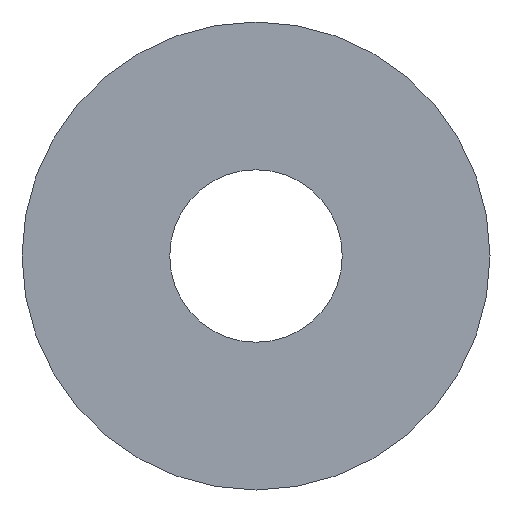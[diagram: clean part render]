
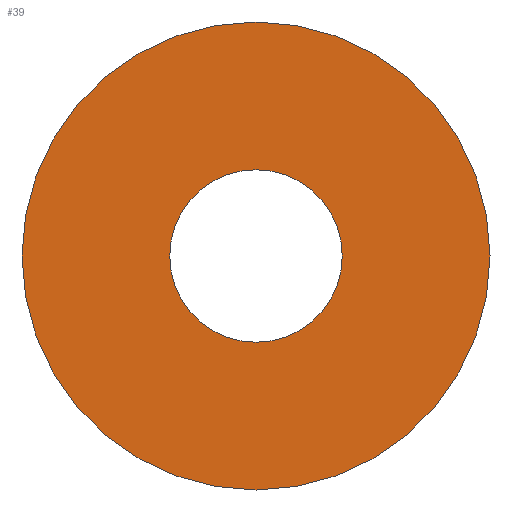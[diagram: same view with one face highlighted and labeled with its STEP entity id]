
A CAD part, front view. The second image highlights one B-rep face of the part: STEP entity #39.
In plain terms, the highlighted planar face has unit normal (0, -1, 0).
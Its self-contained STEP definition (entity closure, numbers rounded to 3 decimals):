
#2 = DIRECTION ( 'NONE',  ( 0., 1., 0. ) ) ;
#10 = FACE_OUTER_BOUND ( 'NONE', #247, .T. ) ;
#14 = DIRECTION ( 'NONE',  ( 0., 1., 0. ) ) ;
#36 = AXIS2_PLACEMENT_3D ( 'NONE', #211, #115, #212 ) ;
#37 = CARTESIAN_POINT ( 'NONE',  ( 0., 0., 0. ) ) ;
#39 = ADVANCED_FACE ( 'NONE', ( #10, #88 ), #128, .F. ) ;
#41 = CIRCLE ( 'NONE', #230, 160. ) ;
#73 = CARTESIAN_POINT ( 'NONE',  ( 0., 0., 160. ) ) ;
#75 = DIRECTION ( 'NONE',  ( 0., 0., 1. ) ) ;
#88 = FACE_BOUND ( 'NONE', #201, .T. ) ;
#113 = EDGE_CURVE ( 'NONE', #196, #206, #116, .T. ) ;
#114 = CARTESIAN_POINT ( 'NONE',  ( 0., 0., 0. ) ) ;
#115 = DIRECTION ( 'NONE',  ( 0., 1., 0. ) ) ;
#116 = CIRCLE ( 'NONE', #36, 160. ) ;
#124 = EDGE_CURVE ( 'NONE', #246, #239, #144, .T. ) ;
#125 = CARTESIAN_POINT ( 'NONE',  ( 0., 0., 0. ) ) ;
#127 = AXIS2_PLACEMENT_3D ( 'NONE', #125, #205, #130 ) ;
#128 = PLANE ( 'NONE',  #127 ) ;
#130 = DIRECTION ( 'NONE',  ( 0., 0., 1. ) ) ;
#144 = CIRCLE ( 'NONE', #180, 434. ) ;
#148 = ORIENTED_EDGE ( 'NONE', *, *, #157, .T. ) ;
#152 = CARTESIAN_POINT ( 'NONE',  ( 0., 0., -160. ) ) ;
#154 = DIRECTION ( 'NONE',  ( 0., 1., 0. ) ) ;
#155 = CARTESIAN_POINT ( 'NONE',  ( 0., 0., 434. ) ) ;
#157 = EDGE_CURVE ( 'NONE', #206, #196, #41, .T. ) ;
#162 = CIRCLE ( 'NONE', #169, 434. ) ;
#169 = AXIS2_PLACEMENT_3D ( 'NONE', #114, #154, #173 ) ;
#173 = DIRECTION ( 'NONE',  ( 0., 0., 1. ) ) ;
#175 = EDGE_CURVE ( 'NONE', #239, #246, #162, .T. ) ;
#180 = AXIS2_PLACEMENT_3D ( 'NONE', #37, #2, #190 ) ;
#190 = DIRECTION ( 'NONE',  ( 0., 0., 1. ) ) ;
#196 = VERTEX_POINT ( 'NONE', #73 ) ;
#201 = EDGE_LOOP ( 'NONE', ( #148, #244 ) ) ;
#205 = DIRECTION ( 'NONE',  ( 0., 1., 0. ) ) ;
#206 = VERTEX_POINT ( 'NONE', #152 ) ;
#211 = CARTESIAN_POINT ( 'NONE',  ( 0., 0., 0. ) ) ;
#212 = DIRECTION ( 'NONE',  ( 0., 0., 1. ) ) ;
#224 = ORIENTED_EDGE ( 'NONE', *, *, #175, .F. ) ;
#230 = AXIS2_PLACEMENT_3D ( 'NONE', #249, #14, #75 ) ;
#235 = CARTESIAN_POINT ( 'NONE',  ( 0., 0., -434. ) ) ;
#238 = ORIENTED_EDGE ( 'NONE', *, *, #124, .F. ) ;
#239 = VERTEX_POINT ( 'NONE', #235 ) ;
#244 = ORIENTED_EDGE ( 'NONE', *, *, #113, .T. ) ;
#246 = VERTEX_POINT ( 'NONE', #155 ) ;
#247 = EDGE_LOOP ( 'NONE', ( #224, #238 ) ) ;
#249 = CARTESIAN_POINT ( 'NONE',  ( 0., 0., 0. ) ) ;
